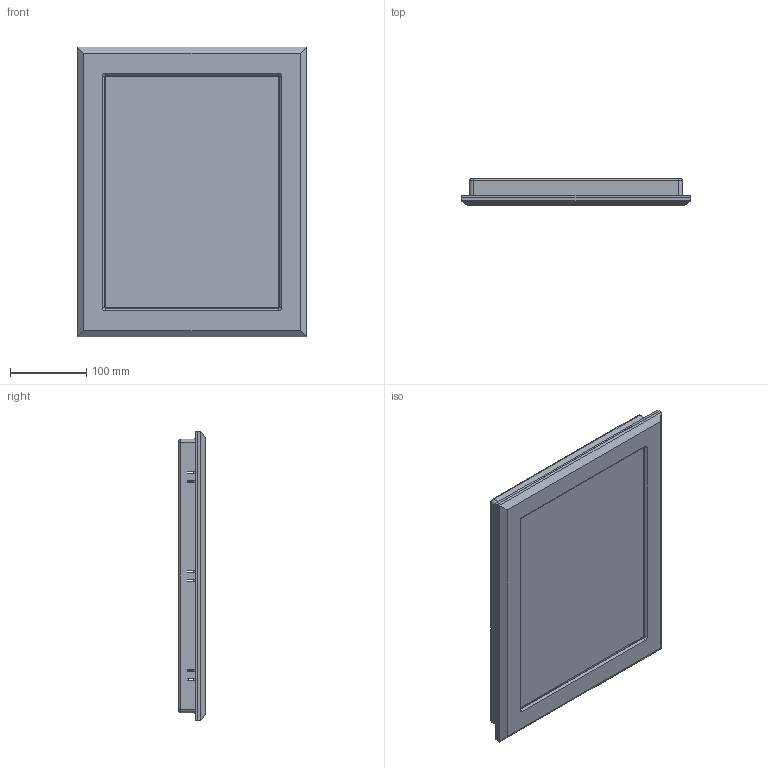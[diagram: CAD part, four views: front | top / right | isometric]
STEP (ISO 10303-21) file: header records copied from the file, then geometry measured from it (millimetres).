
FILE_DESCRIPTION((''),'2;1');
FILE_NAME('3D-DMG10768T150_15WTR','2025-04-14T',('Administrator'),(''),'PRO/ENGINEER BY PARAMETRIC TECHNOLOGY CORPORATION, 2011310','PRO/ENGINEER BY PARAMETRIC TECHNOLOGY CORPORATION, 2011310','');
FILE_SCHEMA(('CONFIG_CONTROL_DESIGN','SHAPE_APPEARANCE_LAYERS_GROUPS'));
Products named in the file (1): 3D-DMG10768T150_15WTR
Bounding box: 300 x 35 x 380 mm (x, y, z)
Volume: 1556040.9 mm3; surface area: 824559.1 mm2
Topology: 2 solids, 31 shells, 1944 faces, 5381 edges, 3558 vertices
Faces by surface type: plane 1303, cylinder 617, cone 12, torus 8, bspline 4
Entity records: 75698 total; most frequent: CARTESIAN_POINT 11099, ORIENTED_EDGE 10762, DIRECTION 10599, EDGE_CURVE 5381, VECTOR 3943, LINE 3943, VERTEX_POINT 3558, AXIS2_PLACEMENT_3D 3328
